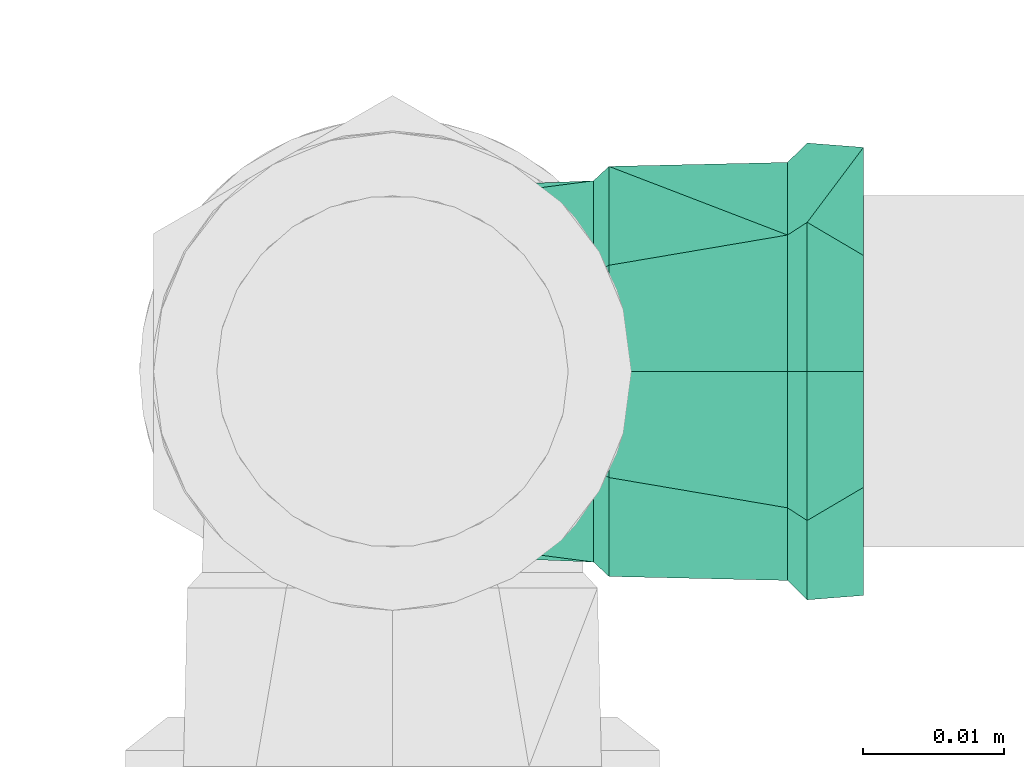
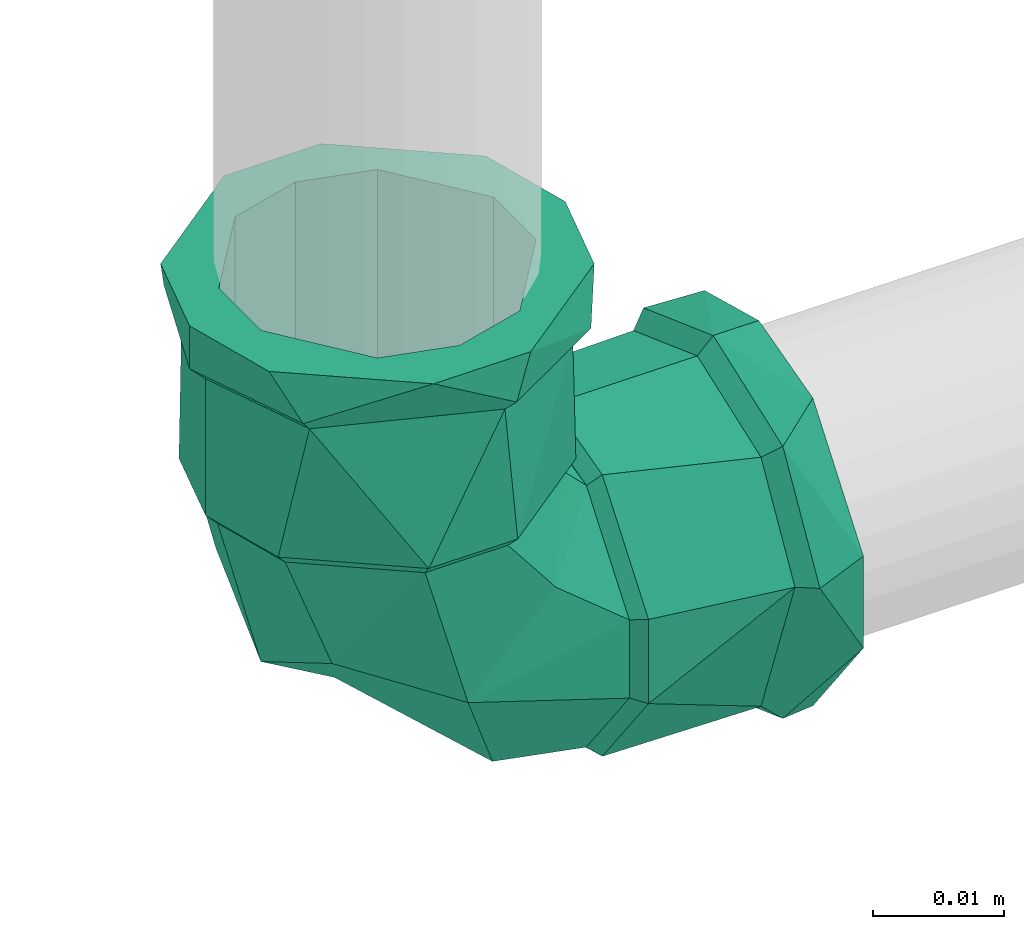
# One storey, part 347 of 589: 1 flow fitting.
"""IFC2X3 building model written with IfcOpenShell, lengths in millimetres."""

from ifc_helpers import new_model, entity, si_unit, converted_unit, derived_unit, direction, frame, origin, place, context, subcontext, project, spatial, faceted_brep, source, transform, mapped, material, type_object, type_shapes, element, save


model = new_model("IFC2X3")

# Units and contexts
model_context = context("Model", 3, precision=0.01, world=origin(), true_north=direction((6.123031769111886e-17, 1.0)))
body_context = subcontext(model_context, "Body", "Model", "MODEL_VIEW")
ifc_project = project(units=[si_unit("LENGTHUNIT", "METRE", prefix="MILLI"), si_unit("AREAUNIT", "SQUARE_METRE"), si_unit("VOLUMEUNIT", "CUBIC_METRE"), converted_unit("PLANEANGLEUNIT", "DEGREE", entity("IfcRatioMeasure", 0.017453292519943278), si_unit("PLANEANGLEUNIT", "RADIAN"), dimensions=[0, 0, 0, 0, 0, 0, 0]), si_unit("MASSUNIT", "GRAM", prefix="KILO"), derived_unit("MASSDENSITYUNIT", [(si_unit("MASSUNIT", "GRAM", prefix="KILO"), 1), (si_unit("LENGTHUNIT", "METRE"), -3)]), derived_unit("IONCONCENTRATIONUNIT", [(si_unit("MASSUNIT", "GRAM", prefix="KILO"), 1), (si_unit("LENGTHUNIT", "METRE"), -3)]), derived_unit("MOMENTOFINERTIAUNIT", [(si_unit("LENGTHUNIT", "METRE"), 4)]), si_unit("TIMEUNIT", "SECOND"), si_unit("FREQUENCYUNIT", "HERTZ"), si_unit("THERMODYNAMICTEMPERATUREUNIT", "DEGREE_CELSIUS"), derived_unit("THERMALTRANSMITTANCEUNIT", [(si_unit("MASSUNIT", "GRAM", prefix="KILO"), 1), (si_unit("THERMODYNAMICTEMPERATUREUNIT", "KELVIN"), -1), (si_unit("TIMEUNIT", "SECOND"), -3)]), derived_unit("THERMALCONDUCTANCEUNIT", [(si_unit("MASSUNIT", "GRAM", prefix="KILO"), 1), (si_unit("THERMODYNAMICTEMPERATUREUNIT", "KELVIN"), -1), (si_unit("TIMEUNIT", "SECOND"), -3), (si_unit("LENGTHUNIT", "METRE"), 1)]), derived_unit("VOLUMETRICFLOWRATEUNIT", [(si_unit("LENGTHUNIT", "METRE"), 3), (si_unit("TIMEUNIT", "SECOND"), -1)]), derived_unit("MASSFLOWRATEUNIT", [(si_unit("MASSUNIT", "GRAM", prefix="KILO"), 1), (si_unit("TIMEUNIT", "SECOND"), -1)]), derived_unit("ROTATIONALFREQUENCYUNIT", [(si_unit("TIMEUNIT", "SECOND"), -1)]), si_unit("ELECTRICCURRENTUNIT", "AMPERE"), si_unit("ELECTRICVOLTAGEUNIT", "VOLT"), si_unit("POWERUNIT", "WATT"), si_unit("FORCEUNIT", "NEWTON", prefix="KILO"), si_unit("ILLUMINANCEUNIT", "LUX"), si_unit("LUMINOUSFLUXUNIT", "LUMEN"), si_unit("LUMINOUSINTENSITYUNIT", "CANDELA"), derived_unit("USERDEFINED", [(si_unit("MASSUNIT", "GRAM", prefix="KILO"), -1), (si_unit("LENGTHUNIT", "METRE"), -2), (si_unit("TIMEUNIT", "SECOND"), 3), (si_unit("LUMINOUSFLUXUNIT", "LUMEN"), 1)]), derived_unit("USERDEFINED", [(si_unit("MASSUNIT", "GRAM", prefix="KILO"), 1), (si_unit("TIMEUNIT", "SECOND"), -3), (si_unit("LENGTHUNIT", "METRE"), 3), (si_unit("ELECTRICCURRENTUNIT", "AMPERE"), -2)]), derived_unit("SOUNDPOWERUNIT", [(si_unit("MASSUNIT", "GRAM", prefix="KILO"), 1), (si_unit("TIMEUNIT", "SECOND"), -3), (si_unit("LENGTHUNIT", "METRE"), 2)]), derived_unit("SOUNDPRESSUREUNIT", [(si_unit("MASSUNIT", "GRAM", prefix="KILO"), 1), (si_unit("LENGTHUNIT", "METRE"), -1), (si_unit("TIMEUNIT", "SECOND"), -2)]), derived_unit("LINEARVELOCITYUNIT", [(si_unit("LENGTHUNIT", "METRE"), 1), (si_unit("TIMEUNIT", "SECOND"), -1)]), si_unit("PRESSUREUNIT", "PASCAL"), derived_unit("USERDEFINED", [(si_unit("MASSUNIT", "GRAM", prefix="KILO"), 1), (si_unit("LENGTHUNIT", "METRE"), -2), (si_unit("TIMEUNIT", "SECOND"), -2)]), derived_unit("LINEARFORCEUNIT", [(si_unit("MASSUNIT", "GRAM", prefix="KILO"), 1), (si_unit("TIMEUNIT", "SECOND"), -2)]), derived_unit("PLANARFORCEUNIT", [(si_unit("MASSUNIT", "GRAM", prefix="KILO"), 1), (si_unit("LENGTHUNIT", "METRE"), -1), (si_unit("TIMEUNIT", "SECOND"), -2)]), derived_unit("SPECIFICHEATCAPACITYUNIT", [(si_unit("THERMODYNAMICTEMPERATUREUNIT", "KELVIN"), -1), (si_unit("LENGTHUNIT", "METRE"), 2), (si_unit("TIMEUNIT", "SECOND"), -2)]), derived_unit("HEATINGVALUEUNIT", [(si_unit("LENGTHUNIT", "METRE"), 2), (si_unit("TIMEUNIT", "SECOND"), -2)]), derived_unit("VAPORPERMEABILITYUNIT", [(si_unit("LENGTHUNIT", "METRE"), -1), (si_unit("TIMEUNIT", "SECOND"), 1)]), derived_unit("DYNAMICVISCOSITYUNIT", [(si_unit("MASSUNIT", "GRAM", prefix="KILO"), 1), (si_unit("TIMEUNIT", "SECOND"), -1), (si_unit("LENGTHUNIT", "METRE"), -1)]), derived_unit("THERMALEXPANSIONCOEFFICIENTUNIT", [(si_unit("THERMODYNAMICTEMPERATUREUNIT", "KELVIN"), -1)]), derived_unit("MODULUSOFELASTICITYUNIT", [(si_unit("MASSUNIT", "GRAM", prefix="KILO"), 1), (si_unit("LENGTHUNIT", "METRE"), -1), (si_unit("TIMEUNIT", "SECOND"), -2)]), derived_unit("ISOTHERMALMOISTURECAPACITYUNIT", [(si_unit("LENGTHUNIT", "METRE"), 3), (si_unit("MASSUNIT", "GRAM", prefix="KILO"), -1)]), derived_unit("MOISTUREDIFFUSIVITYUNIT", [(si_unit("TIMEUNIT", "SECOND"), -1), (si_unit("LENGTHUNIT", "METRE"), 2)])], contexts=[model_context])

# Site, building, storey
site_placement = place(None, origin())
site = spatial("IfcSite", under=ifc_project, at=site_placement, Name="Default", CompositionType="ELEMENT")
building_placement = place(site_placement, origin())
building = spatial("IfcBuilding", under=site, at=building_placement, CompositionType="ELEMENT")
storey_placement = place(building_placement, frame((0.0, 0.0, 100.0)))
storey = spatial("IfcBuildingStorey", under=building, at=storey_placement, Name="TÉRREO", CompositionType="ELEMENT", Elevation=100.0)

# Flow fitting
ifc_material = material(Name="PVC Marrom")
pipe_fitting_type = type_object("IfcPipeFittingType", Name="PVC Marrom Soldável_Joelho 45°_90°_Rodrigo MEP:Joelho", PredefinedType="NOTDEFINED", material=ifc_material)
shared_shape = source(origin(), body_context, "Body", "Brep", [
    faceted_brep([(-3.908167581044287, -15.40000000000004, 14.585479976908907), (-13.076983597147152, -15.40000000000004, 7.549999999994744), (-15.10000000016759, -15.40000000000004, 0.0), (-13.076983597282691, -15.40000000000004, -7.550000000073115), (-3.9081675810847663, -15.40000000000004, -14.585479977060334), (3.9081675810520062, -15.40000000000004, -14.585479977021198), (13.076983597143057, -15.40000000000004, -7.55000000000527), (15.099999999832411, -15.40000000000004, 0.0), (13.076983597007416, -15.40000000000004, 7.549999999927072), (3.908167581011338, -15.40000000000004, 14.585479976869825), (3.6338193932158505, -14.30000000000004, 13.561598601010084), (12.158996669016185, -14.30000000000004, 7.0199999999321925), (14.040000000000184, -14.30000000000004, 0.0), (12.158996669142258, -14.30000000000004, -7.020000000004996), (3.6338193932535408, -14.30000000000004, -13.561598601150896), (-3.6338193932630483, -14.30000000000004, -13.561598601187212), (-12.158996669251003, -14.30000000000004, -7.020000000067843), (-14.039999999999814, -14.30000000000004, 0.0), (-12.158996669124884, -14.30000000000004, 7.0199999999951), (-3.633819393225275, -14.30000000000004, 13.561598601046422)], [[[0, 1, 2, 3, 4, 5, 6, 7, 8, 9]], [[10, 11, 12, 13, 14, 15, 16, 17, 18, 19]], [[13, 12, 6]], [[14, 13, 6, 5]], [[12, 7, 6]], [[5, 4, 15, 14]], [[16, 15, 4, 3]], [[17, 16, 2]], [[16, 3, 2]], [[18, 17, 1]], [[19, 18, 1, 0]], [[17, 2, 1]], [[0, 9, 10, 19]], [[11, 10, 9, 8]], [[12, 11, 7]], [[11, 8, 7]]]),
    faceted_brep([(-15.399999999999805, -3.908167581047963, 14.585479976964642), (-15.399999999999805, 3.908167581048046, 14.585479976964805), (-15.399999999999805, 13.076983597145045, 7.550000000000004), (-15.399999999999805, 15.100000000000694, 0.0), (-15.399999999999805, 13.0769835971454, -7.550000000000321), (-15.399999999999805, 3.9081675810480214, -14.585479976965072), (-15.399999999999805, -3.9081675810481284, -14.58547997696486), (-15.399999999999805, -13.076983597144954, -7.54999999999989), (-15.399999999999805, -15.099999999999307, 0.0), (-15.399999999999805, -13.076983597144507, 7.549999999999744), (-14.299999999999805, 3.633819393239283, 13.56159860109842), (-14.299999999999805, -3.6338193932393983, 13.561598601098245), (-14.299999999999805, -12.158996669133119, 7.019999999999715), (-14.299999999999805, -14.040000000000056, 0.0), (-14.299999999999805, -12.158996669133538, -7.019999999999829), (-14.299999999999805, -3.6338193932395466, -13.56159860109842), (-14.299999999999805, 3.63381939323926, -13.561598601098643), (-14.299999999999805, 12.158996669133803, -7.020000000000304), (-14.299999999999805, 14.039999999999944, 0.0), (-14.299999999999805, 12.15899666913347, 7.020000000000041)], [[[0, 1, 2, 3, 4, 5, 6, 7, 8, 9]], [[10, 11, 12, 13, 14, 15, 16, 17, 18, 19]], [[14, 13, 8, 7]], [[15, 14, 7, 6]], [[6, 5, 16, 15]], [[17, 16, 5, 4]], [[18, 17, 4, 3]], [[19, 18, 3, 2]], [[10, 19, 2, 1]], [[1, 0, 11, 10]], [[12, 11, 0, 9]], [[13, 12, 9, 8]]]),
    faceted_brep([(-33.4999999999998, 0.0, -12.5), (-33.4999999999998, 6.250000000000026, -10.825317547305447), (-33.4999999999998, 4.2705142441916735, -15.937776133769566), (-33.4999999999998, -4.270514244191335, -15.937776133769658), (-33.4999999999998, -6.250000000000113, -10.82531754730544), (-33.4999999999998, 14.289419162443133, -8.25000000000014), (-33.4999999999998, 12.074072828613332, -3.23523806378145), (-33.4999999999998, 16.5, 0.0), (-33.4999999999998, 12.074072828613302, 3.2352380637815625), (-33.4999999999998, 14.289419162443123, 8.249999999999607), (-33.4999999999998, 6.249999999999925, 10.825317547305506), (-33.4999999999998, 4.27051424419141, 15.937776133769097), (-33.4999999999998, 0.0, 12.5), (-33.4999999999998, -4.270514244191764, 15.937776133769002), (-33.4999999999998, -6.249999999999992, 10.825317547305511), (-33.4999999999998, -14.28941916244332, 8.249999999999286), (-33.4999999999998, -12.074072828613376, 3.2352380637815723), (-33.4999999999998, -16.5, 0.0), (-33.4999999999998, -12.074072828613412, -3.235238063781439), (-33.4999999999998, -14.289419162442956, -8.250000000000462), (-29.499999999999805, -16.5, 0.0), (-29.500000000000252, -12.639142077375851, 10.606700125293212), (-29.50000000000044, -4.885841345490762, 13.427814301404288), (-29.5000000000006, 2.8674593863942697, 16.24892847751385), (-29.50000000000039, 12.64180232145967, 10.603529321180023), (-29.499999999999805, 16.499999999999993, 0.0), (-29.49999999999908, 12.641802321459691, -10.603529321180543), (-29.499999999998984, 4.889209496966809, -13.426588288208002), (-29.4999999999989, -2.8633833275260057, -16.249647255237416), (-29.499999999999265, -12.639142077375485, -10.606700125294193), (-28.10000000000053, 11.56916454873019, 9.703835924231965), (-28.099999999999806, 15.099999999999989, 0.0), (-28.10000000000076, 2.624159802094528, 14.870231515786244), (-28.100000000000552, -4.471285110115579, 12.288484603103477), (-28.100000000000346, -11.566730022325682, 9.706737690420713), (-28.09999999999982, -15.099999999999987, 0.0), (-28.099999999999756, -11.566730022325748, -9.706737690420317), (-28.099999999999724, -2.620429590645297, -14.87088930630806), (-28.099999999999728, 4.4743674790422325, -12.287362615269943), (-28.09999999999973, 11.569164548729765, -9.703835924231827), (-15.399999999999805, 3.908167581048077, -14.585479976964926), (-15.399999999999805, 6.250000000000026, -10.825317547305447), (-15.399999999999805, 0.0, -12.5), (-15.399999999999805, 13.076983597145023, -7.549999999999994), (-15.399999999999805, -3.9081675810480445, -14.585479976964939), (-15.399999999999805, 12.074072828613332, -3.23523806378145), (-15.399999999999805, 15.099999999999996, 0.0), (-15.399999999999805, 12.074072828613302, 3.2352380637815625), (-15.399999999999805, 13.076983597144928, 7.550000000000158), (-15.399999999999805, 6.249999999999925, 10.825317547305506), (-15.399999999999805, 3.9081675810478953, 14.585479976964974), (-15.399999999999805, 0.0, 12.5), (-15.399999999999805, -3.9081675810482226, 14.58547997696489), (-15.399999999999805, -6.249999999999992, 10.825317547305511), (-15.399999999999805, -13.076983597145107, 7.549999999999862), (-15.399999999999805, -12.074072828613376, 3.2352380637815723), (-15.399999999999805, -15.100000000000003, 0.0), (-15.399999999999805, -12.074072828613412, -3.235238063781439), (-15.399999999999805, -13.076983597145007, -7.550000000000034), (-15.399999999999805, -6.250000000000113, -10.82531754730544)], [[[0, 1, 2]], [[2, 3, 0]], [[4, 0, 3]], [[5, 2, 1]], [[1, 6, 5]], [[6, 7, 5]], [[8, 7, 6]], [[7, 8, 9]], [[10, 9, 8]], [[9, 10, 11]], [[12, 11, 10]], [[13, 11, 12]], [[12, 14, 13]], [[13, 14, 15]], [[16, 15, 14]], [[15, 16, 17]], [[16, 18, 17]], [[19, 18, 4]], [[17, 18, 19]], [[3, 19, 4]], [[20, 15, 17]], [[20, 21, 15]], [[13, 15, 21]], [[13, 21, 22, 23]], [[9, 11, 24]], [[7, 9, 25]], [[23, 24, 11]], [[25, 9, 24]], [[13, 23, 11]], [[25, 5, 7]], [[25, 26, 5]], [[2, 5, 26]], [[2, 26, 27, 28]], [[19, 3, 29]], [[17, 19, 20]], [[28, 29, 3]], [[20, 19, 29]], [[2, 28, 3]], [[24, 30, 31, 25]], [[30, 24, 23, 32]], [[33, 32, 23, 22, 21, 34]], [[20, 35, 34, 21]], [[29, 36, 35, 20]], [[36, 29, 28, 37]], [[38, 37, 28, 27, 26, 39]], [[25, 31, 39, 26]], [[40, 41, 42]], [[41, 40, 43]], [[42, 44, 40]], [[43, 45, 41]], [[43, 46, 45]], [[45, 46, 47]], [[48, 47, 46]], [[47, 48, 49]], [[50, 49, 48]], [[49, 50, 51]], [[51, 50, 52]], [[52, 53, 51]], [[54, 53, 52]], [[53, 54, 55]], [[56, 55, 54]], [[56, 57, 55]], [[58, 57, 56]], [[59, 57, 58]], [[59, 58, 44]], [[44, 42, 59]], [[54, 34, 35]], [[56, 54, 35]], [[52, 34, 54]], [[52, 32, 33, 34]], [[30, 32, 50]], [[31, 30, 48]], [[50, 48, 30]], [[46, 31, 48]], [[52, 50, 32]], [[43, 39, 31]], [[46, 43, 31]], [[40, 39, 43]], [[40, 37, 38, 39]], [[36, 37, 44]], [[35, 36, 58]], [[44, 58, 36]], [[56, 35, 58]], [[40, 44, 37]], [[49, 51, 12, 10]], [[47, 49, 10, 8]], [[8, 6, 45, 47]], [[41, 45, 6, 1]], [[42, 41, 1, 0]], [[59, 42, 0, 4]], [[57, 59, 4, 18]], [[18, 16, 55, 57]], [[53, 55, 16, 14]], [[51, 53, 14, 12]]]),
    faceted_brep([(-14.299999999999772, 3.6338193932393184, -13.561598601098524), (-14.299999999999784, -3.63381939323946, -13.561598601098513), (-14.299999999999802, -12.158996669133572, -7.019999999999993), (-14.299999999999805, -14.04000000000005, 0.0), (-14.299999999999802, -12.158996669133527, 7.0200000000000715), (-14.299999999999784, -3.633819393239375, 13.561598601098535), (-14.299999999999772, 3.6338193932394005, 13.561598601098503), (-14.299999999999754, 12.158996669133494, 7.019999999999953), (-14.29999999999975, 14.039999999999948, 0.0), (-14.299999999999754, 12.158996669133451, -7.020000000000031), (3.633819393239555, -14.29999999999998, -13.561598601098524), (12.158996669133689, -14.299999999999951, -7.020000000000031), (14.040000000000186, -14.299999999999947, 0.0), (12.158996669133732, -14.299999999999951, 7.019999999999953), (3.6338193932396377, -14.29999999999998, 13.561598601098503), (-3.6338193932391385, -14.300000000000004, 13.561598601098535), (-12.158996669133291, -14.300000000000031, 7.0200000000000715), (-14.039999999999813, -14.300000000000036, 0.0), (-12.158996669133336, -14.300000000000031, -7.019999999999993), (-3.633819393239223, -14.300000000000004, -13.561598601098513), (-0.12999999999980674, 10.243159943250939, 0.0), (-8.296884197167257, -8.296884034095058, 12.78130953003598), (-0.45476175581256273, -0.4547603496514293, 13.009299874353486), (-4.9057767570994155, 9.090331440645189, 8.841582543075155), (3.6031967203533, 3.777073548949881, 0.0), (9.102895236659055, -4.991225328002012, 8.866254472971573), (-14.116152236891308, -14.116152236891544, 0.0), (7.336393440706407, -2.689012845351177, 0.0), (-4.905776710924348, 9.090331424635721, -8.841582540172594), (-0.45476143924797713, -0.45476027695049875, -13.009299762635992), (9.102895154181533, -4.991225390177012, -8.866254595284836), (-8.296884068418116, -8.296883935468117, -12.78130960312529)], [[[0, 1, 2, 3, 4, 5, 6, 7, 8, 9]], [[10, 11, 12, 13, 14, 15, 16, 17, 18, 19]], [[7, 20, 8]], [[5, 21, 22]], [[7, 23, 20]], [[24, 23, 22]], [[14, 13, 25]], [[22, 6, 5]], [[24, 20, 23]], [[4, 3, 26]], [[4, 21, 5]], [[23, 6, 22]], [[14, 22, 15]], [[13, 27, 25]], [[15, 22, 21]], [[25, 22, 14]], [[6, 23, 7]], [[27, 24, 25]], [[16, 26, 17]], [[22, 25, 24]], [[4, 26, 16]], [[21, 16, 15]], [[16, 21, 4]], [[12, 27, 13]], [[28, 29, 0]], [[11, 10, 30]], [[18, 2, 31]], [[1, 29, 31]], [[20, 9, 8]], [[30, 29, 24]], [[0, 9, 28]], [[1, 0, 29]], [[19, 31, 29]], [[1, 31, 2]], [[26, 3, 2]], [[18, 17, 26]], [[30, 10, 29]], [[24, 27, 30]], [[31, 19, 18]], [[10, 19, 29]], [[27, 12, 11]], [[24, 29, 28]], [[24, 28, 20]], [[20, 28, 9]], [[30, 27, 11]], [[26, 2, 18]]]),
    faceted_brep([(-3.908167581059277, -15.40000000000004, -14.585479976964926), (-6.249999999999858, -15.40000000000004, -10.825317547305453), (0.0, -15.40000000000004, -12.5), (-13.076983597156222, -15.40000000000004, -7.549999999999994), (3.9081675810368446, -15.40000000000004, -14.585479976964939), (-12.07407282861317, -15.40000000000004, -3.235238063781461), (-15.100000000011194, -15.40000000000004, 0.0), (-12.074072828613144, -15.40000000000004, 3.2352380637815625), (-13.076983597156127, -15.40000000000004, 7.550000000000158), (-6.249999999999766, -15.40000000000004, 10.825317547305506), (-3.9081675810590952, -15.40000000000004, 14.585479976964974), (0.0, -15.40000000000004, 12.5), (3.9081675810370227, -15.40000000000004, 14.58547997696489), (6.250000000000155, -15.40000000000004, 10.825317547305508), (13.076983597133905, -15.40000000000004, 7.549999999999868), (12.074072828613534, -15.40000000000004, 3.2352380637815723), (15.099999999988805, -15.40000000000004, 0.0), (12.07407282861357, -15.40000000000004, -3.235238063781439), (13.07698359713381, -15.40000000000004, -7.550000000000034), (6.250000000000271, -15.40000000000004, -10.82531754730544), (11.56673002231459, -28.100000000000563, 9.706737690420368), (15.099999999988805, -28.10000000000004, 0.0), (2.6204295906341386, -28.100000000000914, 14.870889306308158), (-11.569164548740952, -28.10000000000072, 9.703835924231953), (-4.474367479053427, -28.100000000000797, 12.287362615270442), (-15.100000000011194, -28.10000000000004, 0.0), (-11.569164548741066, -28.10000000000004, -9.703835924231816), (-2.6241598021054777, -28.10000000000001, -14.870231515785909), (11.566730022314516, -28.10000000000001, -9.706737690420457), (4.471285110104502, -28.10000000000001, -12.288484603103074), (2.8674593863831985, -29.50000000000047, 16.248928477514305), (-4.8858413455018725, -29.500000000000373, 13.427814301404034), (-16.50000000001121, -29.500000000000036, 0.0), (-12.639142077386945, -29.50000000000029, 10.606700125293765), (12.641802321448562, -29.500000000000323, 10.603529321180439), (16.499999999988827, -29.50000000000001, 0.0), (12.64180232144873, -29.500000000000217, -10.603529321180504), (4.889209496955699, -29.50000000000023, -13.426588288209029), (-2.863383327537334, -29.500000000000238, -16.249647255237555), (-12.639142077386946, -29.500000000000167, -10.606700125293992), (0.0, -33.50000000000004, -12.5), (-6.249999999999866, -33.50000000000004, -10.825317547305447), (-4.270514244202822, -33.50000000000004, -15.937776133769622), (4.270514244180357, -33.50000000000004, -15.937776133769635), (6.250000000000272, -33.50000000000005, -10.82531754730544), (-14.289419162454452, -33.50000000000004, -8.249999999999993), (-12.074072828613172, -33.50000000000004, -3.23523806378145), (-16.50000000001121, -33.50000000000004, 0.0), (-12.074072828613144, -33.50000000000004, 3.2352380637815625), (-14.28941916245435, -33.50000000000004, 8.250000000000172), (-6.2499999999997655, -33.50000000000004, 10.825317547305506), (-4.270514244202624, -33.50000000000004, 15.937776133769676), (0.0, -33.50000000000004, 12.5), (4.270514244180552, -33.50000000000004, 15.937776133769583), (6.250000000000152, -33.50000000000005, 10.825317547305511), (14.289419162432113, -33.50000000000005, 8.249999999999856), (12.074072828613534, -33.50000000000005, 3.2352380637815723), (16.49999999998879, -33.50000000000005, 0.0), (12.07407282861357, -33.50000000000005, -3.235238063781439), (14.289419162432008, -33.50000000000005, -8.250000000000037)], [[[0, 1, 2]], [[1, 0, 3]], [[2, 4, 0]], [[3, 5, 1]], [[3, 6, 5]], [[5, 6, 7]], [[8, 7, 6]], [[7, 8, 9]], [[10, 9, 8]], [[9, 10, 11]], [[11, 10, 12]], [[12, 13, 11]], [[14, 13, 12]], [[13, 14, 15]], [[16, 15, 14]], [[16, 17, 15]], [[18, 17, 16]], [[19, 17, 18]], [[19, 18, 4]], [[4, 2, 19]], [[14, 20, 21]], [[16, 14, 21]], [[12, 20, 14]], [[12, 22, 20]], [[10, 23, 24, 22]], [[25, 23, 8]], [[10, 8, 23]], [[6, 25, 8]], [[12, 10, 22]], [[3, 26, 25]], [[6, 3, 25]], [[0, 26, 3]], [[0, 27, 26]], [[4, 28, 29, 27]], [[21, 28, 18]], [[4, 18, 28]], [[16, 21, 18]], [[0, 4, 27]], [[30, 22, 31]], [[32, 23, 25]], [[33, 23, 32]], [[31, 24, 33]], [[34, 21, 20]], [[24, 23, 33]], [[20, 30, 34]], [[21, 34, 35]], [[24, 31, 22]], [[22, 30, 20]], [[36, 28, 21]], [[21, 35, 36]], [[36, 37, 28]], [[37, 29, 28]], [[37, 38, 29]], [[32, 25, 26]], [[27, 39, 26]], [[32, 26, 39]], [[27, 29, 38]], [[38, 39, 27]], [[40, 41, 42]], [[42, 43, 40]], [[44, 40, 43]], [[45, 42, 41]], [[41, 46, 45]], [[46, 47, 45]], [[48, 47, 46]], [[47, 48, 49]], [[50, 49, 48]], [[49, 50, 51]], [[52, 51, 50]], [[53, 51, 52]], [[52, 54, 53]], [[53, 54, 55]], [[56, 55, 54]], [[55, 56, 57]], [[56, 58, 57]], [[59, 58, 44]], [[57, 58, 59]], [[43, 59, 44]], [[35, 55, 57]], [[35, 34, 55]], [[53, 55, 34]], [[30, 53, 34]], [[49, 51, 33]], [[47, 49, 32]], [[51, 30, 31, 33]], [[32, 49, 33]], [[53, 30, 51]], [[32, 45, 47]], [[32, 39, 45]], [[42, 45, 39]], [[38, 42, 39]], [[59, 43, 36]], [[57, 59, 35]], [[43, 38, 37, 36]], [[35, 59, 36]], [[42, 38, 43]], [[9, 11, 52, 50]], [[7, 9, 50, 48]], [[48, 46, 5, 7]], [[1, 5, 46, 41]], [[2, 1, 41, 40]], [[19, 2, 40, 44]], [[17, 19, 44, 58]], [[58, 56, 15, 17]], [[13, 15, 56, 54]], [[11, 13, 54, 52]]]),
])
type_shapes(pipe_fitting_type, [shared_shape])
flow_fitting_placement = place(storey_placement, frame((-7362.272959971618, -4322.12578222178, 600.0), z_axis=(0.0, 1.0, 0.0), x_axis=(0.0, 0.0, -1.0)))
element("IfcFlowFitting", 1, at=flow_fitting_placement, inside=storey, type_object=pipe_fitting_type, material=ifc_material, Name="PVC Marrom Soldável_Joelho 45°_90°_Rodrigo MEP:Joelho", ObjectType="PVC Marrom Soldável_Joelho 45°_90°_Rodrigo MEP:Joelho", context=body_context, shape_type="MappedRepresentation", body=[
    mapped(shared_shape, transform((0.0, 0.0, 0.0), scale=1.0)),
])

save(model, "model.ifc")
